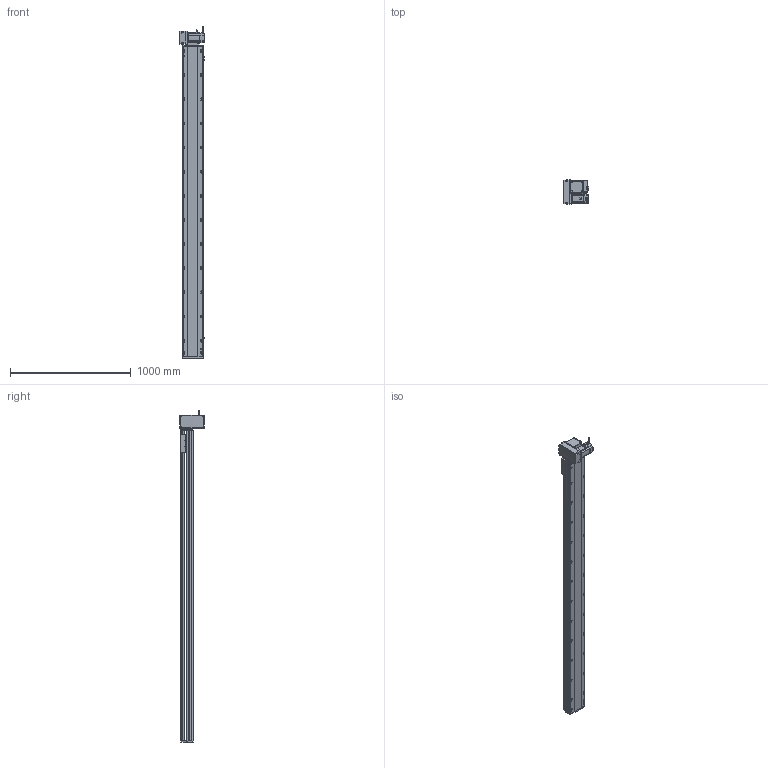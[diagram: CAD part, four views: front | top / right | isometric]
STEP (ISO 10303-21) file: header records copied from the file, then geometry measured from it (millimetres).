
FILE_DESCRIPTION (( 'STEP AP214' ), '1' );
FILE_NAME ('RTB17S-XX-2300-LM-M75-C4.STEP', '2025-12-12T00:45:51', ( '' ), ( '' ), 'SwSTEP 2.0', 'SolidWorks 2018', '' );
FILE_SCHEMA (( 'AUTOMOTIVE_DESIGN' ));
Length unit declared in the file: millimetre
Products named in the file (15): RTB22S-GY-005P^RTB17S-LM-々湍釱蚾饜-750W_RTB17S-XX-XX-LM-M75-C4; RTB22S-GY-018P^RTB17S-LM-々湍釱蚾饜-750W_RTB17S-XX-XX-LM-M75-C4; RTB17S-賑釱^RTB17S-XX-XX-LM-M75-C4; RTB17S-L-007奻裔^RTB17S-XX-XX-LM-M75-C4; RTB17-R-011菁釱^RTB17S-XX-XX-LM-M75-C4; RTB17S-LM-々湍釱蚾饜-750W^RTB17S-XX-XX-LM-M75-C4; RTH13-BL-012覜茼え俋离^RTB17S-賑釱_RTB17S-XX-XX-LM-M75-C4; 750W萇儂^RTB17S-XX-XX-LM-M75-C4; RTB17S-L-004-賑釱^RTB17S-賑釱_RTB17S-XX-XX-LM-M75-C4; RTB17S-L-001-耜醱啣^RTB17S-XX-XX-LM-M75-C4; EE672^RTB17S-XX-XX-LM-M75-C4; RTB22S-GY-008-M75--萇儂啣^RTB17S-LM-々湍釱蚾饜-750W_RTB17S-XX-XX-LM-M75-C4; RTB17S-XX-2300-LM-M75-C4; RTB17S-L-014-T20-P75--々湍釱^RTB17S-LM-々湍釱蚾饜-750W_RTB17S-XX-XX-LM-M75-C4; RTB22S-GY-017P^RTB17S-LM-々湍釱蚾饜-750W_RTB17S-XX-XX-LM-M75-C4
Assembly tree (17 placements, depth 3):
  RTB17S-XX-2300-LM-M75-C4
    RTB17-R-011菁釱^RTB17S-XX-XX-LM-M75-C4
    EE672^RTB17S-XX-XX-LM-M75-C4  x3
    RTB17S-L-001-耜醱啣^RTB17S-XX-XX-LM-M75-C4
    RTB17S-賑釱^RTB17S-XX-XX-LM-M75-C4
      RTB17S-L-004-賑釱^RTB17S-賑釱_RTB17S-XX-XX-LM-M75-C4
      RTH13-BL-012覜茼え俋离^RTB17S-賑釱_RTB17S-XX-XX-LM-M75-C4
    RTB17S-L-007奻裔^RTB17S-XX-XX-LM-M75-C4
    750W萇儂^RTB17S-XX-XX-LM-M75-C4
    RTB17S-LM-々湍釱蚾饜-750W^RTB17S-XX-XX-LM-M75-C4
      RTB17S-L-014-T20-P75--々湍釱^RTB17S-LM-々湍釱蚾饜-750W_RTB17S-XX-XX-LM-M75-C4
      RTB22S-GY-005P^RTB17S-LM-々湍釱蚾饜-750W_RTB17S-XX-XX-LM-M75-C4
      RTB22S-GY-017P^RTB17S-LM-々湍釱蚾饜-750W_RTB17S-XX-XX-LM-M75-C4  x2
      RTB22S-GY-008-M75--萇儂啣^RTB17S-LM-々湍釱蚾饜-750W_RTB17S-XX-XX-LM-M75-C4
      RTB22S-GY-018P^RTB17S-LM-々湍釱蚾饜-750W_RTB17S-XX-XX-LM-M75-C4
Bounding box: 210.4 x 200 x 2752.2 mm (x, y, z)
Volume: 20325024.5 mm3; surface area: 3668646.4 mm2
Topology: 17 solids, 17 shells, 2201 faces, 6160 edges, 3986 vertices
Faces by surface type: plane 984, cylinder 801, bspline 294, cone 110, sphere 8, torus 4
Entity records: 63478 total; most frequent: CARTESIAN_POINT 18824, ORIENTED_EDGE 9164, DIRECTION 8492, EDGE_CURVE 4582, AXIS2_PLACEMENT_3D 3006, VERTEX_POINT 2990, LINE 2480, VECTOR 2480
